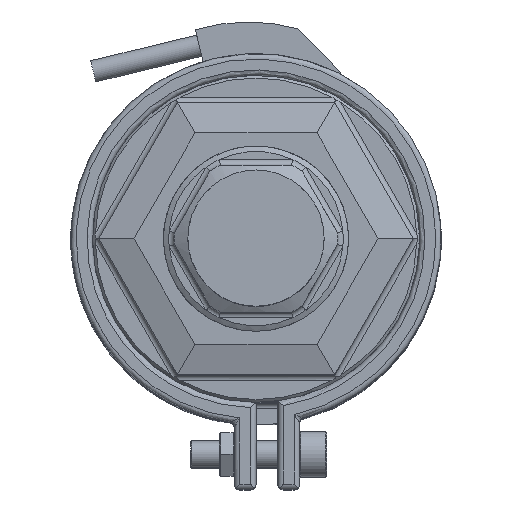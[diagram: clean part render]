
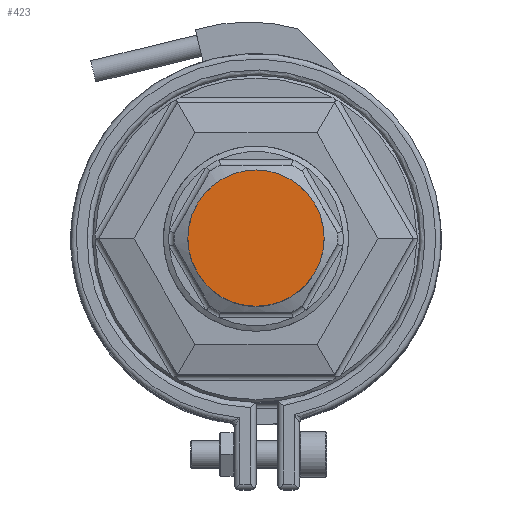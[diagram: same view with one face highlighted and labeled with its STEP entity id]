
A CAD part, top view. The second image highlights one B-rep face of the part: STEP entity #423.
In plain terms, the highlighted planar face has unit normal (0, 0, 1).
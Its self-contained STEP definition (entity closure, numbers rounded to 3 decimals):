
#423=ADVANCED_FACE('',(#1020),#1021,.F.);
#1020=FACE_OUTER_BOUND('',#1853,.T.);
#1021=PLANE('',#1854);
#1853=EDGE_LOOP('',(#3719));
#1854=AXIS2_PLACEMENT_3D('',#3720,#3721,#3722);
#3719=ORIENTED_EDGE('',*,*,#5223,.T.);
#3720=CARTESIAN_POINT('',(-12.5,0.0,58.));
#3721=DIRECTION('',(0.0,0.,-1.0));
#3722=DIRECTION('',(0.0,1.0,0.));
#5223=EDGE_CURVE('',#6040,#6040,#6041,.T.);
#6040=VERTEX_POINT('',#7453);
#6041=CIRCLE('',#7454,12.5);
#7453=CARTESIAN_POINT('',(0.0,-12.5,58.));
#7454=AXIS2_PLACEMENT_3D('',#8769,#8770,#8771);
#8769=CARTESIAN_POINT('',(0.0,0.0,58.));
#8770=DIRECTION('',(-0.0,0.,1.0));
#8771=DIRECTION('',(0.0,-1.0,0.));
